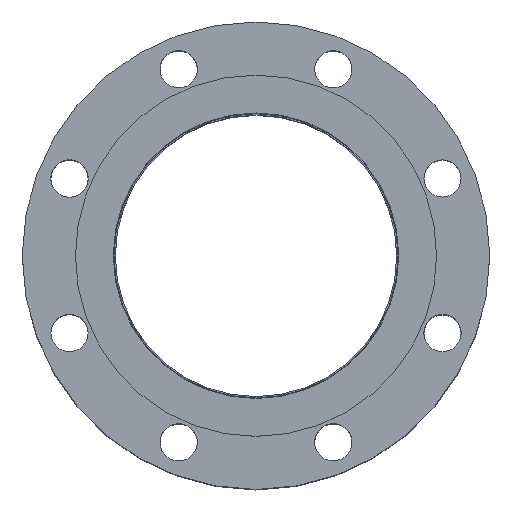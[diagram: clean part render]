
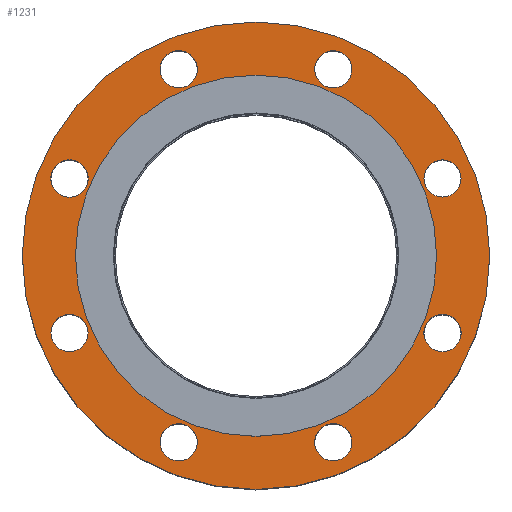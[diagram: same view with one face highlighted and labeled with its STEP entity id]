
A CAD part, top view. The second image highlights one B-rep face of the part: STEP entity #1231.
In plain terms, the highlighted planar face has unit normal (0, 0, 1).
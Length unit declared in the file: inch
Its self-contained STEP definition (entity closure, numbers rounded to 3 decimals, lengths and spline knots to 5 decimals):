
#84=FACE_BOUND('',#331,.T.);
#85=FACE_BOUND('',#332,.T.);
#86=FACE_BOUND('',#333,.T.);
#87=FACE_BOUND('',#334,.T.);
#88=FACE_BOUND('',#335,.T.);
#89=FACE_BOUND('',#336,.T.);
#90=FACE_BOUND('',#337,.T.);
#91=FACE_BOUND('',#338,.T.);
#92=FACE_BOUND('',#339,.T.);
#134=PLANE('',#1404);
#225=FACE_OUTER_BOUND('',#330,.T.);
#330=EDGE_LOOP('',(#957));
#331=EDGE_LOOP('',(#958));
#332=EDGE_LOOP('',(#959));
#333=EDGE_LOOP('',(#960));
#334=EDGE_LOOP('',(#961));
#335=EDGE_LOOP('',(#962));
#336=EDGE_LOOP('',(#963));
#337=EDGE_LOOP('',(#964));
#338=EDGE_LOOP('',(#965));
#339=EDGE_LOOP('',(#966));
#487=CIRCLE('',#1359,0.4375);
#489=CIRCLE('',#1362,0.4375);
#491=CIRCLE('',#1365,0.4375);
#493=CIRCLE('',#1368,0.4375);
#495=CIRCLE('',#1371,0.4375);
#497=CIRCLE('',#1374,0.4375);
#499=CIRCLE('',#1377,0.4375);
#501=CIRCLE('',#1380,0.4375);
#514=CIRCLE('',#1399,4.25);
#516=CIRCLE('',#1403,5.5);
#627=VERTEX_POINT('',#2134);
#629=VERTEX_POINT('',#2140);
#631=VERTEX_POINT('',#2146);
#633=VERTEX_POINT('',#2152);
#635=VERTEX_POINT('',#2158);
#637=VERTEX_POINT('',#2164);
#639=VERTEX_POINT('',#2170);
#641=VERTEX_POINT('',#2176);
#652=VERTEX_POINT('',#2208);
#654=VERTEX_POINT('',#2215);
#731=EDGE_CURVE('',#627,#627,#487,.T.);
#734=EDGE_CURVE('',#629,#629,#489,.T.);
#737=EDGE_CURVE('',#631,#631,#491,.T.);
#740=EDGE_CURVE('',#633,#633,#493,.T.);
#743=EDGE_CURVE('',#635,#635,#495,.T.);
#746=EDGE_CURVE('',#637,#637,#497,.T.);
#749=EDGE_CURVE('',#639,#639,#499,.T.);
#752=EDGE_CURVE('',#641,#641,#501,.T.);
#768=EDGE_CURVE('',#652,#652,#514,.T.);
#770=EDGE_CURVE('',#654,#654,#516,.T.);
#957=ORIENTED_EDGE('',*,*,#770,.T.);
#958=ORIENTED_EDGE('',*,*,#731,.T.);
#959=ORIENTED_EDGE('',*,*,#734,.T.);
#960=ORIENTED_EDGE('',*,*,#737,.T.);
#961=ORIENTED_EDGE('',*,*,#740,.T.);
#962=ORIENTED_EDGE('',*,*,#743,.T.);
#963=ORIENTED_EDGE('',*,*,#746,.T.);
#964=ORIENTED_EDGE('',*,*,#749,.T.);
#965=ORIENTED_EDGE('',*,*,#752,.T.);
#966=ORIENTED_EDGE('',*,*,#768,.T.);
#1231=ADVANCED_FACE('',(#225,#84,#85,#86,#87,#88,#89,#90,#91,#92),#134,
 .T.);
#1359=AXIS2_PLACEMENT_3D('',#2135,#1615,#1616);
#1362=AXIS2_PLACEMENT_3D('',#2141,#1622,#1623);
#1365=AXIS2_PLACEMENT_3D('',#2147,#1629,#1630);
#1368=AXIS2_PLACEMENT_3D('',#2153,#1636,#1637);
#1371=AXIS2_PLACEMENT_3D('',#2159,#1643,#1644);
#1374=AXIS2_PLACEMENT_3D('',#2165,#1650,#1651);
#1377=AXIS2_PLACEMENT_3D('',#2171,#1657,#1658);
#1380=AXIS2_PLACEMENT_3D('',#2177,#1664,#1665);
#1399=AXIS2_PLACEMENT_3D('',#2210,#1705,#1706);
#1403=AXIS2_PLACEMENT_3D('',#2216,#1713,#1714);
#1404=AXIS2_PLACEMENT_3D('',#2218,#1716,#1717);
#1615=DIRECTION('center_axis',(0.,0.,-1.));
#1616=DIRECTION('ref_axis',(0.707,-0.707,0.));
#1622=DIRECTION('center_axis',(0.,0.,-1.));
#1623=DIRECTION('ref_axis',(0.,-1.,0.));
#1629=DIRECTION('center_axis',(0.,0.,-1.));
#1630=DIRECTION('ref_axis',(-0.707,-0.707,0.));
#1636=DIRECTION('center_axis',(0.,0.,-1.));
#1637=DIRECTION('ref_axis',(-1.,0.,0.));
#1643=DIRECTION('center_axis',(0.,0.,-1.));
#1644=DIRECTION('ref_axis',(-0.707,0.707,0.));
#1650=DIRECTION('center_axis',(0.,0.,-1.));
#1651=DIRECTION('ref_axis',(0.,1.,0.));
#1657=DIRECTION('center_axis',(0.,0.,-1.));
#1658=DIRECTION('ref_axis',(0.707,0.707,0.));
#1664=DIRECTION('center_axis',(0.,0.,-1.));
#1665=DIRECTION('ref_axis',(1.,0.,0.));
#1705=DIRECTION('center_axis',(0.,0.,-1.));
#1706=DIRECTION('ref_axis',(0.,1.,0.));
#1713=DIRECTION('center_axis',(0.,0.,1.));
#1714=DIRECTION('ref_axis',(1.,0.,0.));
#1716=DIRECTION('center_axis',(0.,0.,1.));
#1717=DIRECTION('ref_axis',(1.,0.,0.));
#2134=CARTESIAN_POINT('',(1.50839,4.69779,0.47));
#2135=CARTESIAN_POINT('Origin',(1.81775,4.38843,0.47));
#2140=CARTESIAN_POINT('',(4.38843,2.25525,0.47));
#2141=CARTESIAN_POINT('Origin',(4.38843,1.81775,0.47));
#2146=CARTESIAN_POINT('',(4.69779,-1.50839,0.47));
#2147=CARTESIAN_POINT('Origin',(4.38843,-1.81775,0.47));
#2152=CARTESIAN_POINT('',(2.25525,-4.38843,0.47));
#2153=CARTESIAN_POINT('Origin',(1.81775,-4.38843,0.47));
#2158=CARTESIAN_POINT('',(-1.50839,-4.69779,0.47));
#2159=CARTESIAN_POINT('Origin',(-1.81775,-4.38843,0.47));
#2164=CARTESIAN_POINT('',(-4.38843,-2.25525,0.47));
#2165=CARTESIAN_POINT('Origin',(-4.38843,-1.81775,0.47));
#2170=CARTESIAN_POINT('',(-4.69779,1.50839,0.47));
#2171=CARTESIAN_POINT('Origin',(-4.38843,1.81775,0.47));
#2176=CARTESIAN_POINT('',(-2.25525,4.38843,0.47));
#2177=CARTESIAN_POINT('Origin',(-1.81775,4.38843,0.47));
#2208=CARTESIAN_POINT('',(0.,-4.25,0.47));
#2210=CARTESIAN_POINT('Origin',(0.,0.,0.47));
#2215=CARTESIAN_POINT('',(0.,-5.5,0.47));
#2216=CARTESIAN_POINT('Origin',(0.,0.,0.47));
#2218=CARTESIAN_POINT('Origin',(0.,3.36,0.47));
